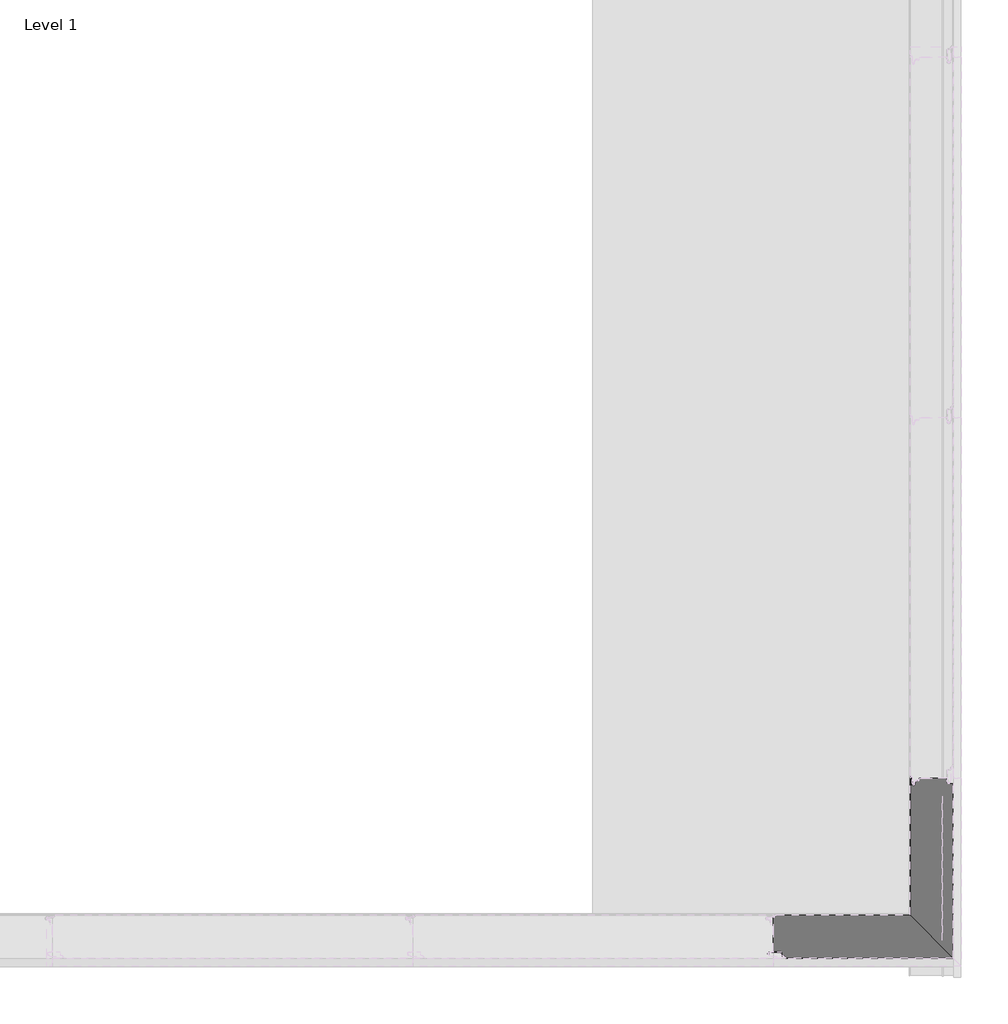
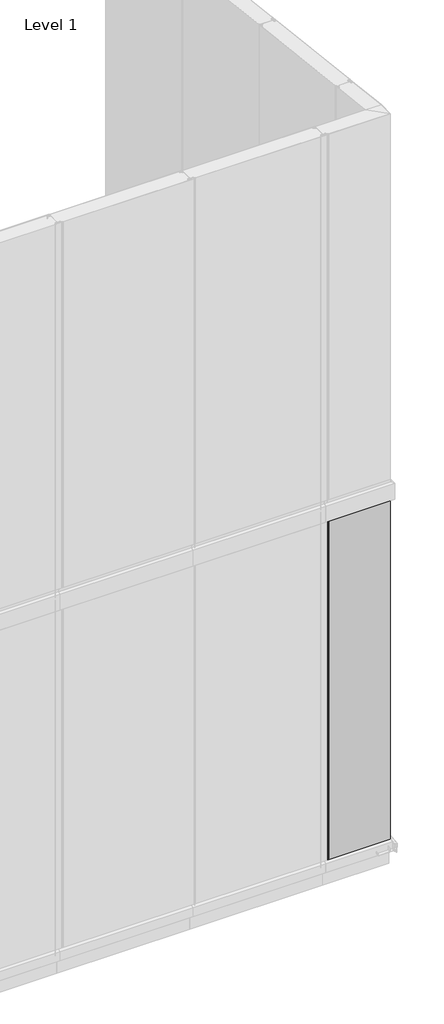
# One storey, part 4 of 12: 1 plate.
"""IFC4 building model written with IfcOpenShell, lengths in millimetres."""

from ifc_helpers import new_model, si_unit, point, frame, frame_2d, origin, place, context, project, spatial, polyline, circle_curve, ellipse_curve, trimmed, segment, composite_curve, outline, extrude, element, save
from ifc_brep_helpers import plane_surface, cylinder_surface, revolved_surface, advanced_brep

model = new_model("IFC4")

# Units and contexts
model_context = context("Model", 3, world=origin())
ifc_project = project(units=[si_unit("LENGTHUNIT", "METRE", prefix="MILLI")], contexts=[model_context])

# Site, building, storey
site = spatial("IfcSite", under=ifc_project)
building = spatial("IfcBuilding", under=site)
storey = spatial("IfcBuildingStorey", under=building, Name="Level 1", Elevation=0.0)

# Plate
placement = place(None, origin())
element("IfcPlate", 1, ObjectType="TR_C_V_FHL_Corner_Long_B : 120/RAL9006/RAL9002", at=placement, inside=storey, context=model_context, shape_type="SolidModel", body=[
    extrude(outline(composite_curve([segment(polyline([(-4113.3155057, 4088.8069121), (-4483.9373314, 4088.8069121)]), True, "CONTINUOUS"), segment(trimmed(circle_curve(frame_2d((-4483.9373314, 4086.6069121)), 2.2), [point((-4483.9373314, 4088.8069121))], [point((-4485.4929663, 4088.162547))], True, "CARTESIAN"), True, "CONTINUOUS"), segment(polyline([(-4485.4929663, 4088.162547), (-4489.8820536, 4083.7734598)]), True, "CONTINUOUS"), segment(trimmed(circle_curve(frame_2d((-4492.215506, 4086.1069121)), 3.3), [point((-4489.8820536, 4083.7734598))], [point((-4492.215506, 4082.8069121))], False, "CARTESIAN"), True, "CONTINUOUS"), segment(polyline([(-4492.215506, 4082.8069121), (-4506.965506, 4082.8069121)]), True, "CONTINUOUS"), segment(trimmed(circle_curve(frame_2d((-4506.965506, 4080.3569121)), 2.45), [point((-4506.965506, 4082.8069121))], [point((-4507.390944, 4077.9441331))], True, "CARTESIAN"), True, "CONTINUOUS"), segment(polyline([(-4507.390944, 4077.9441331), (-4503.1754067, 4077.2008202)]), True, "CONTINUOUS"), segment(trimmed(circle_curve(frame_2d((-4503.965506, 4072.7199449)), 4.55), [point((-4503.1754067, 4077.2008202))], [point((-4499.415506, 4072.7199449))], False, "CARTESIAN"), True, "CONTINUOUS"), segment(polyline([(-4499.415506, 4072.7199449), (-4499.415506, 4068.6069121), (-4500.215506, 4068.6069121), (-4500.215506, 4072.7199449)]), True, "CONTINUOUS"), segment(trimmed(circle_curve(frame_2d((-4503.965506, 4072.7199449)), 3.75), [point((-4500.215506, 4072.7199449))], [point((-4503.3143253, 4076.412974))], True, "CARTESIAN"), True, "CONTINUOUS"), segment(polyline([(-4503.3143253, 4076.412974), (-4507.5298625, 4077.1562869)]), True, "CONTINUOUS"), segment(trimmed(circle_curve(frame_2d((-4506.965506, 4080.3569121)), 3.25), [point((-4507.5298625, 4077.1562869))], [point((-4506.965506, 4083.6069121))], False, "CARTESIAN"), True, "CONTINUOUS"), segment(polyline([(-4506.965506, 4083.6069121), (-4492.215506, 4083.6069121)]), True, "CONTINUOUS"), segment(trimmed(circle_curve(frame_2d((-4492.215506, 4086.1069121)), 2.5), [point((-4492.215506, 4083.6069121))], [point((-4490.447739, 4084.3391452))], True, "CARTESIAN"), True, "CONTINUOUS"), segment(polyline([(-4490.447739, 4084.3391452), (-4486.0586517, 4088.7282325)]), True, "CONTINUOUS"), segment(trimmed(circle_curve(frame_2d((-4483.9373314, 4086.6069121)), 3.0), [point((-4486.0586517, 4088.7282325))], [point((-4483.9373314, 4089.6069121))], False, "CARTESIAN"), True, "CONTINUOUS"), segment(polyline([(-4483.9373314, 4089.6069121), (-4114.1155057, 4089.6069121), (-4113.3155057, 4088.8069121)]), True, "CONTINUOUS")], self_intersect=False)), frame((0.0, 0.0, 150.0), z_axis=(0.0, 0.0, 1.0), x_axis=(1.0, 0.0, 0.0)), (0.0, 0.0, 1.0), 2830.0),
    extrude(outline(composite_curve([segment(polyline([(-3994.1155058, 3969.6069121), (-4457.5525855, 3969.6069121)]), True, "CONTINUOUS"), segment(trimmed(circle_curve(frame_2d((-4457.5525855, 3972.3069121)), 2.7), [point((-4457.5525855, 3969.6069121))], [point((-4459.4617738, 3970.3977238))], False, "CARTESIAN"), True, "CONTINUOUS"), segment(polyline([(-4459.4617738, 3970.3977238), (-4464.2851757, 3975.2211257)]), True, "CONTINUOUS"), segment(trimmed(circle_curve(frame_2d((-4465.6993893, 3973.8069121)), 2.0), [point((-4464.2851757, 3975.2211257))], [point((-4465.6993893, 3975.8069121))], True, "CARTESIAN"), True, "CONTINUOUS"), segment(polyline([(-4465.6993893, 3975.8069121), (-4468.5155058, 3975.8069121)]), True, "CONTINUOUS"), segment(trimmed(circle_curve(frame_2d((-4468.5155058, 3978.5069121)), 2.7), [point((-4468.5155058, 3975.8069121))], [point((-4471.2155058, 3978.5069121))], False, "CARTESIAN"), True, "CONTINUOUS"), segment(polyline([(-4471.2155058, 3978.5069121), (-4471.2155058, 3984.4069121)]), True, "CONTINUOUS"), segment(trimmed(circle_curve(frame_2d((-4473.2155058, 3984.4069121)), 2.0), [point((-4471.2155058, 3984.4069121))], [point((-4473.2155058, 3986.4069121))], True, "CARTESIAN"), True, "CONTINUOUS"), segment(polyline([(-4473.2155058, 3986.4069121), (-4492.3155058, 3986.4069121), (-4504.7944042, 3985.31515)]), True, "CONTINUOUS"), segment(trimmed(circle_curve(frame_2d((-4504.5155058, 3982.127327)), 3.2), [point((-4504.7944042, 3985.31515))], [point((-4505.5573239, 3979.1016675))], True, "CARTESIAN"), True, "CONTINUOUS"), segment(polyline([(-4505.5573239, 3979.1016675), (-4504.658139, 3978.7920533), (-4504.9185935, 3978.0356385), (-4505.8177784, 3978.3452527)]), True, "CONTINUOUS"), segment(trimmed(circle_curve(frame_2d((-4504.5155058, 3982.127327)), 4.0), [point((-4505.8177784, 3978.3452527))], [point((-4504.8641288, 3986.1121057))], False, "CARTESIAN"), True, "CONTINUOUS"), segment(polyline([(-4504.8641288, 3986.1121057), (-4492.3504346, 3987.2069121), (-4473.2155058, 3987.2069121)]), True, "CONTINUOUS"), segment(trimmed(circle_curve(frame_2d((-4473.2155058, 3984.4069121)), 2.8), [point((-4473.2155058, 3987.2069121))], [point((-4470.4155058, 3984.4069121))], False, "CARTESIAN"), True, "CONTINUOUS"), segment(polyline([(-4470.4155058, 3984.4069121), (-4470.4155058, 3978.5069121)]), True, "CONTINUOUS"), segment(trimmed(circle_curve(frame_2d((-4468.5155058, 3978.5069121)), 1.9), [point((-4470.4155058, 3978.5069121))], [point((-4468.5155058, 3976.6069121))], True, "CARTESIAN"), True, "CONTINUOUS"), segment(polyline([(-4468.5155058, 3976.6069121), (-4465.6993893, 3976.6069121)]), True, "CONTINUOUS"), segment(trimmed(circle_curve(frame_2d((-4465.6993893, 3973.8069121)), 2.8), [point((-4465.6993893, 3976.6069121))], [point((-4463.7194903, 3975.7868111))], False, "CARTESIAN"), True, "CONTINUOUS"), segment(polyline([(-4463.7194903, 3975.7868111), (-4458.8960884, 3970.9634092)]), True, "CONTINUOUS"), segment(trimmed(circle_curve(frame_2d((-4457.5525855, 3972.3069121)), 1.9), [point((-4458.8960884, 3970.9634092))], [point((-4457.5525855, 3970.4069121))], True, "CARTESIAN"), True, "CONTINUOUS"), segment(polyline([(-4457.5525855, 3970.4069121), (-3994.9155057, 3970.4069121), (-3994.1155058, 3969.6069121)]), True, "CONTINUOUS")], self_intersect=False)), frame((0.0, 0.0, 150.0), z_axis=(0.0, 0.0, 1.0), x_axis=(1.0, 0.0, 0.0)), (0.0, 0.0, 1.0), 2830.0),
    advanced_brep(
    [(-3994.1155057, 3969.606912, 2980.0), (-3994.1155057, 4494.707529, 2980.0), (-3994.9741101, 4496.682184, 2980.0), (-3996.9197088, 4498.4964842, 2980.0), (-4000.1155057, 4497.1069121, 2980.0), (-4000.1155057, 4464.7801839, 2980.0), (-4000.2517092, 4463.9662635, 2980.0), (-4002.5909089, 4457.1727343, 2980.0), (-4010.5519334, 4458.1502251, 2980.0), (-4011.4158468, 4468.0248015, 2980.0), (-4013.9063336, 4470.3069121, 2980.0), (-4014.9155057, 4470.3069121, 2980.0), (-4014.9155057, 4469.5069121, 2980.0), (-4013.9063336, 4469.5069121, 2980.0), (-4012.2128026, 4467.9550769, 2980.0), (-4011.3488891, 4458.0805005, 2980.0), (-4001.8344941, 4456.9122797, 2980.0), (-3999.4952944, 4463.705809, 2980.0), (-3999.3155057, 4464.7801839, 2980.0), (-3999.3155057, 4497.1069121, 2980.0), (-3997.4653075, 4497.9114012, 2980.0), (-3995.5197088, 4496.0971011, 2980.0), (-3994.9155057, 4494.707529, 2980.0), (-3994.9155057, 3970.4069121, 2980.0), (-3994.1155057, 3969.606912, 150.0), (-3994.9155057, 3970.4069121, 150.0), (-3994.9155057, 4089.6069121, 150.0), (-3994.1155057, 4089.6069121, 150.0), (-3994.9155057, 4494.707529, 197.1047229), (-3994.1155057, 4494.707529, 197.1047229), (-3994.9741101, 4496.682184, 197.3343339), (-3996.9197088, 4498.4964842, 197.5452991), (-4000.1155057, 4497.1069121, 197.3837209), (-4000.1155057, 4464.7801839, 193.624799), (-4000.2517092, 4463.9662635, 193.5301571), (-4002.5909089, 4457.1727343, 192.7402119), (-4010.5519334, 4458.1502251, 192.8538736), (-4011.4158468, 4468.0248015, 194.0020802), (-4013.9063336, 4470.3069121, 194.2674419), (-4014.9155057, 4470.3069121, 194.2674419), (-4014.9155057, 4469.5069121, 194.1744186), (-4013.9063336, 4469.5069121, 194.1744186), (-4012.2128026, 4467.9550769, 193.9939726), (-4011.3488891, 4458.0805005, 192.8457661), (-4001.8344941, 4456.9122797, 192.7099265), (-3999.4952944, 4463.705809, 193.4998717), (-3999.3155057, 4464.7801839, 193.624799), (-3999.3155057, 4497.1069121, 197.3837209), (-3997.4653075, 4497.9114012, 197.4772662), (-3995.5197088, 4496.0971011, 197.266301)],
    [
        (0, 1),
        (1, 2, circle_curve(frame((-3996.8155057, 4494.707529, 2980.0), z_axis=(0.0, 0.0, 1.0), x_axis=(0.0, 1.0, 0.0)), 2.7)),
        (2, 3),
        (3, 4, circle_curve(frame((-3998.2155057, 4497.1069121, 2980.0), z_axis=(0.0, 0.0, 1.0), x_axis=(0.0, 1.0, 0.0)), 1.9)),
        (4, 5),
        (5, 6, circle_curve(frame((-4002.6155057, 4464.7801839, 2980.0), z_axis=(0.0, 0.0, -1.0), x_axis=(0.0, 1.0, 0.0)), 2.5)),
        (6, 7),
        (7, 8, circle_curve(frame((-4006.4675351, 4458.5075637, 2980.0), z_axis=(0.0, 0.0, -1.0), x_axis=(0.0, 1.0, 0.0)), 4.1)),
        (8, 9),
        (9, 10, circle_curve(frame((-4013.9063336, 4467.8069121, 2980.0), z_axis=(0.0, 0.0, 1.0), x_axis=(0.0, 1.0, 0.0)), 2.5)),
        (10, 11),
        (11, 12),
        (12, 13),
        (13, 14, circle_curve(frame((-4013.9063336, 4467.8069121, 2980.0), z_axis=(0.0, 0.0, -1.0), x_axis=(0.0, 1.0, 0.0)), 1.7)),
        (14, 15),
        (15, 16, circle_curve(frame((-4006.4675351, 4458.5075637, 2980.0), z_axis=(0.0, 0.0, 1.0), x_axis=(0.0, 1.0, 0.0)), 4.9)),
        (16, 17),
        (17, 18, circle_curve(frame((-4002.6155057, 4464.7801839, 2980.0), z_axis=(0.0, 0.0, 1.0), x_axis=(0.0, 1.0, 0.0)), 3.3)),
        (18, 19),
        (19, 20, circle_curve(frame((-3998.2155057, 4497.1069121, 2980.0), z_axis=(0.0, 0.0, -1.0), x_axis=(0.0, 1.0, 0.0)), 1.1)),
        (20, 21),
        (21, 22, circle_curve(frame((-3996.8155057, 4494.707529, 2980.0), z_axis=(0.0, 0.0, -1.0), x_axis=(0.0, 1.0, 0.0)), 1.9)),
        (22, 23),
        (23, 0),
        (24, 25),
        (25, 26),
        (26, 27),
        (27, 24),
        (22, 28),
        (28, 26),
        (25, 23),
        (24, 0),
        (27, 29),
        (29, 1),
        (29, 30, ellipse_curve(frame((-3996.8155057, 4494.707529, 197.1047229), z_axis=(0.0, -0.11550085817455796, 0.9933073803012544), x_axis=(0.0, 0.9933073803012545, 0.11550085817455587)), 2.7181918, 2.7)),
        (30, 2),
        (30, 31),
        (31, 3),
        (31, 32, ellipse_curve(frame((-3998.2155057, 4497.1069121, 197.3837209), z_axis=(0.0, -0.11550085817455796, 0.9933073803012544), x_axis=(0.0, 0.9933073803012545, 0.11550085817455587)), 1.9128017, 1.9)),
        (32, 4),
        (32, 33),
        (33, 5),
        (33, 34, ellipse_curve(frame((-4002.6155057, 4464.7801839, 193.624799), z_axis=(0.0, 0.11550085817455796, -0.9933073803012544), x_axis=(0.0, -0.9933073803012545, -0.11550085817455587)), 2.5168443, 2.5)),
        (34, 6),
        (34, 35),
        (35, 7),
        (35, 36, ellipse_curve(frame((-4006.4675351, 4458.5075637, 192.8954246), z_axis=(0.0, 0.11550085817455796, -0.9933073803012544), x_axis=(0.0, -0.9933073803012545, -0.11550085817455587)), 4.1276246, 4.1)),
        (36, 8),
        (36, 37),
        (37, 9),
        (37, 38, ellipse_curve(frame((-4013.9063336, 4467.8069121, 193.9767442), z_axis=(0.0, -0.11550085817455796, 0.9933073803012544), x_axis=(0.0, 0.9933073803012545, 0.11550085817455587)), 2.5168443, 2.5)),
        (38, 10),
        (38, 39),
        (39, 11),
        (39, 40),
        (40, 12),
        (40, 41),
        (41, 13),
        (41, 42, ellipse_curve(frame((-4013.9063336, 4467.8069121, 193.9767442), z_axis=(0.0, 0.11550085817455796, -0.9933073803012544), x_axis=(0.0, -0.9933073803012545, -0.11550085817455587)), 1.7114541, 1.7)),
        (42, 14),
        (42, 43),
        (43, 15),
        (43, 44, ellipse_curve(frame((-4006.4675351, 4458.5075637, 192.8954246), z_axis=(0.0, -0.11550085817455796, 0.9933073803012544), x_axis=(0.0, 0.9933073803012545, 0.11550085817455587)), 4.9330148, 4.9)),
        (44, 16),
        (44, 45),
        (45, 17),
        (45, 46, ellipse_curve(frame((-4002.6155057, 4464.7801839, 193.624799), z_axis=(0.0, -0.11550085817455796, 0.9933073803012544), x_axis=(0.0, 0.9933073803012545, 0.11550085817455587)), 3.3222345, 3.3)),
        (46, 18),
        (46, 47),
        (47, 19),
        (47, 48, ellipse_curve(frame((-3998.2155057, 4497.1069121, 197.3837209), z_axis=(0.0, 0.11550085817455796, -0.9933073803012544), x_axis=(0.0, -0.9933073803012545, -0.11550085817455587)), 1.1074115, 1.1)),
        (48, 20),
        (48, 49),
        (49, 21),
        (49, 28, ellipse_curve(frame((-3996.8155057, 4494.707529, 197.1047229), z_axis=(0.0, 0.11550085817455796, -0.9933073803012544), x_axis=(0.0, -0.9933073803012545, -0.11550085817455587)), 1.9128017, 1.9)),
    ],
    [
        plane_surface(frame((-3994.1155057, 4494.707529, 2980.0), z_axis=(0.0, 0.0, 1.0), x_axis=(0.0, 1.0, 0.0))),
        plane_surface(frame((-3994.1155057, 4494.707529, 150.0), z_axis=(0.0, 0.0, -1.0), x_axis=(0.0, -1.0, 0.0))),
        plane_surface(frame((-3994.9155057, 4494.707529, 2980.0), z_axis=(-1.0, 0.0, 0.0), x_axis=(0.0, 0.0, -1.0))),
        plane_surface(frame((-3994.9155057, 3970.4069121, 2980.0), z_axis=(-0.7071068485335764, -0.7071067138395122, 0.0), x_axis=(0.0, 0.0, -1.0))),
        plane_surface(frame((-3994.1155057, 3969.606912, 2980.0), z_axis=(1.0, 0.0, 0.0), x_axis=(0.0, 0.0, -1.0))),
        cylinder_surface(frame((-3996.8155057, 4494.707529, 150.0), z_axis=(0.0, 0.0, 1.0), x_axis=(0.0, 1.0, 0.0)), 2.7),
        plane_surface(frame((-3994.9741101, 4496.682184, 2980.0), z_axis=(0.6819983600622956, 0.7313537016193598, 0.0), x_axis=(0.0, 0.0, -1.0))),
        cylinder_surface(frame((-3998.2155057, 4497.1069121, 150.0), z_axis=(0.0, 0.0, 1.0), x_axis=(0.0, 1.0, 0.0)), 1.9),
        plane_surface(frame((-4000.1155057, 4497.1069121, 2980.0), z_axis=(-1.0, 0.0, 0.0), x_axis=(0.0, 0.0, -1.0))),
        revolved_surface(polyline([(-4002.6155057, 4467.2801839, 193.33410132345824), (-4002.6155057, 4467.2801839, 2980.0)]), (-4002.6155057, 4464.7801839, 150.0), (0.0, 0.0, -1.0)),
        plane_surface(frame((-4000.2517092, 4463.9662635, 2980.0), z_axis=(-0.9455185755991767, 0.3255681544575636, 0.0), x_axis=(0.0, 0.0, -1.0))),
        revolved_surface(polyline([(-4006.4675351, 4462.6075637, 192.4186804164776), (-4006.4675351, 4462.6075637, 2980.0)]), (-4006.4675351, 4458.5075637, 150.0), (0.0, 0.0, -1.0)),
        plane_surface(frame((-4010.5519334, 4458.1502251, 2980.0), z_axis=(0.9961946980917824, 0.08715574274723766, 0.0), x_axis=(0.0, 0.0, -1.0))),
        cylinder_surface(frame((-4013.9063336, 4467.8069121, 150.0), z_axis=(0.0, 0.0, 1.0), x_axis=(0.0, 1.0, 0.0)), 2.5),
        plane_surface(frame((-4013.9063336, 4470.3069121, 2980.0), z_axis=(0.0, 1.0, 0.0), x_axis=(0.0, 0.0, -1.0))),
        plane_surface(frame((-4014.9155057, 4470.3069121, 2980.0), z_axis=(-1.0, 0.0, 0.0), x_axis=(0.0, 0.0, -1.0))),
        plane_surface(frame((-4014.9155057, 4469.5069121, 2980.0), z_axis=(0.0, -1.0, 0.0), x_axis=(0.0, 0.0, -1.0))),
        revolved_surface(polyline([(-4013.9063336, 4469.5069121, 193.77906978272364), (-4013.9063336, 4469.5069121, 2980.0)]), (-4013.9063336, 4467.8069121, 150.0), (0.0, 0.0, -1.0)),
        plane_surface(frame((-4012.2128026, 4467.9550769, 2980.0), z_axis=(-0.9961946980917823, -0.08715574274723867, 0.0), x_axis=(0.0, 0.0, -1.0))),
        cylinder_surface(frame((-4006.4675351, 4458.5075637, 150.0), z_axis=(0.0, 0.0, 1.0), x_axis=(0.0, 1.0, 0.0)), 4.9),
        plane_surface(frame((-4001.8344941, 4456.9122797, 2980.0), z_axis=(0.9455185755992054, -0.3255681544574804, 0.0), x_axis=(0.0, 0.0, -1.0))),
        cylinder_surface(frame((-4002.6155057, 4464.7801839, 150.0), z_axis=(0.0, 0.0, 1.0), x_axis=(0.0, 1.0, 0.0)), 3.3),
        plane_surface(frame((-3999.3155057, 4464.7801839, 2980.0), z_axis=(1.0, 0.0, 0.0), x_axis=(0.0, 0.0, -1.0))),
        revolved_surface(polyline([(-3998.2155057, 4498.2069121, 197.25581392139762), (-3998.2155057, 4498.2069121, 2980.0)]), (-3998.2155057, 4497.1069121, 150.0), (0.0, 0.0, -1.0)),
        plane_surface(frame((-3997.4653075, 4497.9114012, 2980.0), z_axis=(-0.6819983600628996, -0.7313537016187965, 0.0), x_axis=(0.0, 0.0, -1.0))),
        revolved_surface(polyline([(-3996.8155057, 4496.607529, 196.88379266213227), (-3996.8155057, 4496.607529, 2980.0)]), (-3996.8155057, 4494.707529, 150.0), (0.0, 0.0, -1.0)),
        plane_surface(frame((-3994.1155057, 6239.6069121, 400.0), z_axis=(0.0, 0.11550085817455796, -0.9933073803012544), x_axis=(0.0, 0.9933073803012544, 0.11550085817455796))),
    ],
    [
        (0, [[1, 2, 3, 4, 5, 6, 7, 8, 9, 10, 11, 12, 13, 14, 15, 16, 17, 18, 19, 20, 21, 22, 23, 24]]),
        (1, [[25, 26, 27, 28]]),
        (2, [[-23, 29, 30, -26, 31]]),
        (3, [[-24, -31, -25, 32]]),
        (4, [[-1, -32, -28, 33, 34]]),
        (5, [[-2, -34, 35, 36]]),
        (6, [[-3, -36, 37, 38]]),
        (7, [[-4, -38, 39, 40]]),
        (8, [[-5, -40, 41, 42]]),
        (9, [[-6, -42, 43, 44]]),
        (10, [[-7, -44, 45, 46]]),
        (11, [[-8, -46, 47, 48]]),
        (12, [[-9, -48, 49, 50]]),
        (13, [[-10, -50, 51, 52]]),
        (14, [[-11, -52, 53, 54]]),
        (15, [[-12, -54, 55, 56]]),
        (16, [[-13, -56, 57, 58]]),
        (17, [[-14, -58, 59, 60]]),
        (18, [[-15, -60, 61, 62]]),
        (19, [[-16, -62, 63, 64]]),
        (20, [[-17, -64, 65, 66]]),
        (21, [[-18, -66, 67, 68]]),
        (22, [[-19, -68, 69, 70]]),
        (23, [[-20, -70, 71, 72]]),
        (24, [[-21, -72, 73, 74]]),
        (25, [[-22, -74, 75, -29]]),
        (26, [[-27, -30, -75, -73, -71, -69, -67, -65, -63, -61, -59, -57, -55, -53, -51, -49, -47, -45, -43, -41, -39, -37, -35, -33]]),
    ],
),
    advanced_brep(
    [(-4113.3155057, 4088.8069121, 2980.0), (-4113.3155057, 4469.1255413, 2980.0), (-4112.7443639, 4470.5043995, 2980.0), (-4110.8786785, 4472.3700849, 2980.0), (-4108.9155057, 4471.5569121, 2980.0), (-4108.9155057, 4453.9569121, 2980.0), (-4100.4800727, 4453.2189074, 2980.0), (-4099.4132474, 4459.2691743, 2980.0), (-4096.5080645, 4461.7069121, 2980.0), (-4093.1155057, 4461.7069121, 2980.0), (-4093.1155057, 4462.5069121, 2980.0), (-4096.5080645, 4462.5069121, 2980.0), (-4100.2010936, 4459.4080928, 2980.0), (-4101.2679189, 4453.3578259, 2980.0), (-4108.1155057, 4453.9569121, 2980.0), (-4108.1155057, 4471.5569121, 2980.0), (-4111.4443639, 4472.9357704, 2980.0), (-4113.3100493, 4471.0700849, 2980.0), (-4114.1155057, 4469.1255413, 2980.0), (-4114.1155057, 4089.6069121, 2980.0), (-4113.3155057, 4088.8069121, 150.0), (-4114.1155057, 4089.6069121, 150.0), (-4113.3155057, 4089.6069121, 150.0), (-4114.1155057, 4469.1255413, 194.1300732), (-4113.3155057, 4469.1255413, 194.1300732), (-4112.7443639, 4470.5043995, 194.2904055), (-4110.8786785, 4472.3700849, 194.5073457), (-4108.9155057, 4471.5569121, 194.4127907), (-4108.9155057, 4453.9569121, 192.3662791), (-4100.4800727, 4453.2189074, 192.2804646), (-4099.4132474, 4459.2691743, 192.983984), (-4096.5080645, 4461.7069121, 193.2674419), (-4093.1155057, 4461.7069121, 193.2674419), (-4093.1155057, 4462.5069121, 193.3604651), (-4096.5080645, 4462.5069121, 193.3604651), (-4100.2010936, 4459.4080928, 193.0001373), (-4101.2679189, 4453.3578259, 192.2966179), (-4108.1155057, 4453.9569121, 192.3662791), (-4108.1155057, 4471.5569121, 194.4127907), (-4111.4443639, 4472.9357704, 194.573123), (-4113.3100493, 4471.0700849, 194.3561829)],
    [
        (0, 1),
        (1, 2, circle_curve(frame((-4111.3655057, 4469.1255413, 2980.0), z_axis=(0.0, 0.0, -1.0), x_axis=(0.0, 1.0, 0.0)), 1.95)),
        (2, 3),
        (3, 4, circle_curve(frame((-4110.0655057, 4471.5569121, 2980.0), z_axis=(0.0, 0.0, -1.0), x_axis=(0.0, 1.0, 0.0)), 1.15)),
        (4, 5),
        (5, 6, circle_curve(frame((-4104.6655057, 4453.9569121, 2980.0), z_axis=(0.0, 0.0, 1.0), x_axis=(0.0, 1.0, 0.0)), 4.25)),
        (6, 7),
        (7, 8, circle_curve(frame((-4096.5080645, 4458.7569121, 2980.0), z_axis=(0.0, 0.0, -1.0), x_axis=(0.0, 1.0, 0.0)), 2.95)),
        (8, 9),
        (9, 10),
        (10, 11),
        (11, 12, circle_curve(frame((-4096.5080645, 4458.7569121, 2980.0), z_axis=(0.0, 0.0, 1.0), x_axis=(0.0, 1.0, 0.0)), 3.75)),
        (12, 13),
        (13, 14, circle_curve(frame((-4104.6655057, 4453.9569121, 2980.0), z_axis=(0.0, 0.0, -1.0), x_axis=(0.0, 1.0, 0.0)), 3.45)),
        (14, 15),
        (15, 16, circle_curve(frame((-4110.0655057, 4471.5569121, 2980.0), z_axis=(0.0, 0.0, 1.0), x_axis=(0.0, 1.0, 0.0)), 1.95)),
        (16, 17),
        (17, 18, circle_curve(frame((-4111.3655057, 4469.1255413, 2980.0), z_axis=(0.0, 0.0, 1.0), x_axis=(0.0, 1.0, 0.0)), 2.75)),
        (18, 19),
        (19, 0),
        (20, 21),
        (21, 22),
        (22, 20),
        (18, 23),
        (23, 21),
        (21, 19),
        (20, 0),
        (22, 24),
        (24, 1),
        (24, 25, ellipse_curve(frame((-4111.3655057, 4469.1255413, 194.1300732), z_axis=(0.0, 0.11550085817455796, -0.9933073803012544), x_axis=(0.0, -0.9933073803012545, -0.11550085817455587)), 1.9631385, 1.95)),
        (25, 2),
        (25, 26),
        (26, 3),
        (26, 27, ellipse_curve(frame((-4110.0655057, 4471.5569121, 194.4127907), z_axis=(0.0, 0.11550085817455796, -0.9933073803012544), x_axis=(0.0, -0.9933073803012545, -0.11550085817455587)), 1.1577484, 1.15)),
        (27, 4),
        (27, 28),
        (28, 5),
        (28, 29, ellipse_curve(frame((-4104.6655057, 4453.9569121, 192.3662791), z_axis=(0.0, -0.11550085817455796, 0.9933073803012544), x_axis=(0.0, 0.9933073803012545, 0.11550085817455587)), 4.2786353, 4.25)),
        (29, 6),
        (29, 30),
        (30, 7),
        (8, 31),
        (31, 32),
        (32, 9),
        (32, 33),
        (33, 10),
        (33, 34),
        (34, 11),
        (12, 35),
        (35, 36),
        (36, 13),
        (36, 37, ellipse_curve(frame((-4104.6655057, 4453.9569121, 192.3662791), z_axis=(0.0, 0.11550085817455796, -0.9933073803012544), x_axis=(0.0, -0.9933073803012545, -0.11550085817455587)), 3.4732451, 3.45)),
        (37, 14),
        (37, 38),
        (38, 15),
        (38, 39, ellipse_curve(frame((-4110.0655057, 4471.5569121, 194.4127907), z_axis=(0.0, -0.11550085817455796, 0.9933073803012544), x_axis=(0.0, 0.9933073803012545, 0.11550085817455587)), 1.9631385, 1.95)),
        (39, 16),
        (39, 40),
        (40, 17),
        (40, 23, ellipse_curve(frame((-4111.3655057, 4469.1255413, 194.1300732), z_axis=(0.0, -0.11550085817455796, 0.9933073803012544), x_axis=(0.0, 0.9933073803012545, 0.11550085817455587)), 2.7685287, 2.75)),
        (30, 31, ellipse_curve(frame((-4096.5080645, 4458.7569121, 192.9244186), z_axis=(0.0, 0.11550085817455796, -0.9933073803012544), x_axis=(0.0, -0.9933073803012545, -0.11550085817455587)), 2.9698763, 2.95)),
        (34, 35, ellipse_curve(frame((-4096.5080645, 4458.7569121, 192.9244186), z_axis=(0.0, -0.11550085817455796, 0.9933073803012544), x_axis=(0.0, 0.9933073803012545, 0.11550085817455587)), 3.7752664, 3.75)),
    ],
    [
        plane_surface(frame((-4113.3155057, 4469.1255413, 2980.0), z_axis=(0.0, 0.0, 1.0), x_axis=(0.0, 1.0, 0.0))),
        plane_surface(frame((-4113.3155057, 4469.1255413, 150.0), z_axis=(0.0, 0.0, -1.0), x_axis=(0.0, -1.0, 0.0))),
        plane_surface(frame((-4114.1155057, 4469.1255413, 2980.0), z_axis=(-1.0, 0.0, 0.0), x_axis=(0.0, 0.0, -1.0))),
        plane_surface(frame((-4114.1155057, 4089.6069121, 2980.0), z_axis=(-0.7071067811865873, -0.7071067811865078, 0.0), x_axis=(0.0, 0.0, -1.0))),
        plane_surface(frame((-4113.3155057, 4088.8069121, 2980.0), z_axis=(1.0, 0.0, 0.0), x_axis=(0.0, 0.0, -1.0))),
        revolved_surface(polyline([(-4111.3655057, 4471.0755413, 193.9033290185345), (-4111.3655057, 4471.0755413, 2980.0)]), (-4111.3655057, 4469.1255413, 150.0), (0.0, 0.0, -1.0)),
        plane_surface(frame((-4112.7443639, 4470.5043995, 2980.0), z_axis=(0.7071067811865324, -0.7071067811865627, 0.0), x_axis=(0.0, 0.0, -1.0))),
        revolved_surface(polyline([(-4110.0655057, 4472.7069120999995, 194.27906976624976), (-4110.0655057, 4472.7069120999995, 2980.0)]), (-4110.0655057, 4471.5569121, 150.0), (0.0, 0.0, -1.0)),
        plane_surface(frame((-4108.9155057, 4471.5569121, 2980.0), z_axis=(-1.0, 0.0, 0.0), x_axis=(0.0, 0.0, -1.0))),
        cylinder_surface(frame((-4104.6655057, 4453.9569121, 150.0), z_axis=(0.0, 0.0, 1.0), x_axis=(0.0, 1.0, 0.0)), 4.25),
        plane_surface(frame((-4100.4800727, 4453.2189074, 2980.0), z_axis=(0.9848077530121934, -0.17364817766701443, 0.0), x_axis=(0.0, 0.0, -1.0))),
        plane_surface(frame((-4096.5080645, 4461.7069121, 2980.0), z_axis=(0.0, -1.0, 0.0), x_axis=(0.0, 0.0, -1.0))),
        plane_surface(frame((-4093.1155057, 4461.7069121, 2980.0), z_axis=(1.0, 0.0, 0.0), x_axis=(0.0, 0.0, -1.0))),
        plane_surface(frame((-4093.1155057, 4462.5069121, 2980.0), z_axis=(0.0, 1.0, 0.0), x_axis=(0.0, 0.0, -1.0))),
        plane_surface(frame((-4100.2010936, 4459.4080928, 2980.0), z_axis=(-0.9848077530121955, 0.173648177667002, 0.0), x_axis=(0.0, 0.0, -1.0))),
        revolved_surface(polyline([(-4104.6655057, 4457.4069121, 191.96511631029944), (-4104.6655057, 4457.4069121, 2980.0)]), (-4104.6655057, 4453.9569121, 150.0), (0.0, 0.0, -1.0)),
        plane_surface(frame((-4108.1155057, 4453.9569121, 2980.0), z_axis=(1.0, 0.0, 0.0), x_axis=(0.0, 0.0, -1.0))),
        cylinder_surface(frame((-4110.0655057, 4471.5569121, 150.0), z_axis=(0.0, 0.0, 1.0), x_axis=(0.0, 1.0, 0.0)), 1.95),
        plane_surface(frame((-4111.4443639, 4472.9357704, 2980.0), z_axis=(-0.7071067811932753, 0.7071067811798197, 0.0), x_axis=(0.0, 0.0, -1.0))),
        cylinder_surface(frame((-4111.3655057, 4469.1255413, 150.0), z_axis=(0.0, 0.0, 1.0), x_axis=(0.0, 1.0, 0.0)), 2.75),
        revolved_surface(polyline([(-4096.5080645, 4461.7069120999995, 192.58139533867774), (-4096.5080645, 4461.7069120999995, 2980.0)]), (-4096.5080645, 4458.7569121, 150.0), (0.0, 0.0, -1.0)),
        cylinder_surface(frame((-4096.5080645, 4458.7569121, 150.0), z_axis=(0.0, 0.0, 1.0), x_axis=(0.0, 1.0, 0.0)), 3.75),
        plane_surface(frame((-3994.1155057, 6239.6069121, 400.0), z_axis=(0.0, 0.11550085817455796, -0.9933073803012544), x_axis=(0.0, 0.9933073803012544, 0.11550085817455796))),
    ],
    [
        (0, [[1, 2, 3, 4, 5, 6, 7, 8, 9, 10, 11, 12, 13, 14, 15, 16, 17, 18, 19, 20]]),
        (1, [[21, 22, 23]]),
        (2, [[-19, 24, 25, 26]]),
        (3, [[-20, -26, -21, 27]]),
        (4, [[-1, -27, -23, 28, 29]]),
        (5, [[-2, -29, 30, 31]]),
        (6, [[-3, -31, 32, 33]]),
        (7, [[-4, -33, 34, 35]]),
        (8, [[-5, -35, 36, 37]]),
        (9, [[-6, -37, 38, 39]]),
        (10, [[-7, -39, 40, 41]]),
        (11, [[-9, 42, 43, 44]]),
        (12, [[-10, -44, 45, 46]]),
        (13, [[-11, -46, 47, 48]]),
        (14, [[-13, 49, 50, 51]]),
        (15, [[-14, -51, 52, 53]]),
        (16, [[-15, -53, 54, 55]]),
        (17, [[-16, -55, 56, 57]]),
        (18, [[-17, -57, 58, 59]]),
        (19, [[-18, -59, 60, -24]]),
        (20, [[-8, -41, 61, -42]]),
        (21, [[-12, -48, 62, -49]]),
        (22, [[-22, -25, -60, -58, -56, -54, -52, -50, -62, -47, -45, -43, -61, -40, -38, -36, -34, -32, -30, -28]]),
    ],
),
    extrude(outline(composite_curve([segment(polyline([(-3994.9155057, 3970.4069121), (-4457.5525855, 3970.4069121)]), True, "CONTINUOUS"), segment(trimmed(circle_curve(frame_2d((-4457.5525855, 3972.3069121)), 1.9), [point((-4457.5525855, 3970.4069121))], [point((-4458.8960884, 3970.9634092))], False, "CARTESIAN"), True, "CONTINUOUS"), segment(polyline([(-4458.8960884, 3970.9634092), (-4463.7194903, 3975.7868111)]), True, "CONTINUOUS"), segment(trimmed(circle_curve(frame_2d((-4465.6993893, 3973.8069121)), 2.8), [point((-4463.7194903, 3975.7868111))], [point((-4465.6993893, 3976.6069121))], True, "CARTESIAN"), True, "CONTINUOUS"), segment(polyline([(-4465.6993893, 3976.6069121), (-4468.5155058, 3976.6069121)]), True, "CONTINUOUS"), segment(trimmed(circle_curve(frame_2d((-4468.5155058, 3978.5069121)), 1.9), [point((-4468.5155058, 3976.6069121))], [point((-4470.4155058, 3978.5069121))], False, "CARTESIAN"), True, "CONTINUOUS"), segment(polyline([(-4470.4155058, 3978.5069121), (-4470.4155058, 3984.4069121)]), True, "CONTINUOUS"), segment(trimmed(circle_curve(frame_2d((-4473.2155058, 3984.4069121)), 2.8), [point((-4470.4155058, 3984.4069121))], [point((-4473.2155058, 3987.2069121))], True, "CARTESIAN"), True, "CONTINUOUS"), segment(polyline([(-4473.2155058, 3987.2069121), (-4492.3504346, 3987.2069121), (-4494.1155061, 3987.0524884), (-4494.1155061, 4082.8069121), (-4492.2155058, 4082.8069121)]), True, "CONTINUOUS"), segment(trimmed(circle_curve(frame_2d((-4492.2155058, 4086.1069121)), 3.3), [point((-4492.2155058, 4082.8069121))], [point((-4489.8820534, 4083.7734598))], True, "CARTESIAN"), True, "CONTINUOUS"), segment(polyline([(-4489.8820534, 4083.7734598), (-4485.4929661, 4088.162547)]), True, "CONTINUOUS"), segment(trimmed(circle_curve(frame_2d((-4483.9373312, 4086.6069121)), 2.2), [point((-4485.4929661, 4088.162547))], [point((-4483.9373312, 4088.8069121))], False, "CARTESIAN"), True, "CONTINUOUS"), segment(polyline([(-4483.9373312, 4088.8069121), (-4113.3155057, 4088.8069121), (-3994.9155057, 3970.4069121)]), True, "CONTINUOUS")], self_intersect=False)), frame((0.0, 0.0, 150.0), z_axis=(0.0, 0.0, 1.0), x_axis=(1.0, 0.0, 0.0)), (0.0, 0.0, 1.0), 2830.0),
    advanced_brep(
    [(-3994.9155057, 3970.4069121, 2980.0), (-3994.9155057, 4453.6075637, 2980.0), (-4006.4675351, 4453.6075637, 2980.0), (-4011.3488891, 4458.0805005, 2980.0), (-4012.2128026, 4467.9550769, 2980.0), (-4013.9063336, 4469.5069121, 2980.0), (-4014.9155057, 4469.6069121, 2980.0), (-4088.9755057, 4469.6069121, 2980.0), (-4088.9755057, 4461.7069121, 2980.0), (-4096.5080645, 4461.7069121, 2980.0), (-4099.4132474, 4459.2691743, 2980.0), (-4100.4800727, 4453.2189074, 2980.0), (-4104.6655057, 4449.7069121, 2980.0), (-4113.3155057, 4449.7069121, 2980.0), (-4113.3155057, 4088.8069121, 2980.0), (-3994.9155057, 3970.4069121, 150.0), (-4113.3155057, 4088.8069121, 150.0), (-4113.3155057, 4089.6069121, 150.0), (-3994.9155057, 4089.6069121, 150.0), (-4113.3155057, 4449.7069121, 191.872093), (-3994.9155057, 4453.6075637, 192.3256572), (-4014.9155057, 4469.6069121, 194.1860465), (-4088.9755057, 4469.6069121, 194.1860465), (-4006.4675351, 4453.6075637, 192.3256572), (-4011.3488891, 4458.0805005, 192.8457661), (-4012.2128026, 4467.9550769, 193.9939726), (-4013.9063336, 4469.5069121, 194.1744186), (-4088.9755057, 4461.7069121, 193.2674419), (-4096.5080645, 4461.7069121, 193.2674419), (-4099.4132474, 4459.2691743, 192.983984), (-4100.4800727, 4453.2189074, 192.2804646), (-4104.6655057, 4449.7069121, 191.872093)],
    [
        (0, 1),
        (1, 2),
        (2, 3, circle_curve(frame((-4006.4675351, 4458.5075637, 2980.0), z_axis=(0.0, 0.0, -1.0), x_axis=(1.0, 0.0, 0.0)), 4.9)),
        (3, 4),
        (4, 5, circle_curve(frame((-4013.9063336, 4467.8069121, 2980.0), z_axis=(0.0, 0.0, 1.0), x_axis=(1.0, 0.0, 0.0)), 1.7)),
        (5, 6),
        (6, 7),
        (7, 8),
        (8, 9),
        (9, 10, circle_curve(frame((-4096.5080645, 4458.7569121, 2980.0), z_axis=(0.0, 0.0, 1.0), x_axis=(1.0, 0.0, 0.0)), 2.95)),
        (10, 11),
        (11, 12, circle_curve(frame((-4104.6655057, 4453.9569121, 2980.0), z_axis=(0.0, 0.0, -1.0), x_axis=(1.0, 0.0, 0.0)), 4.25)),
        (12, 13),
        (13, 14),
        (14, 0),
        (15, 16),
        (16, 17),
        (17, 18),
        (18, 15),
        (13, 19),
        (19, 17),
        (16, 14),
        (15, 0),
        (18, 20),
        (20, 1),
        (6, 21),
        (21, 22),
        (22, 7),
        (20, 23),
        (23, 2),
        (23, 24, ellipse_curve(frame((-4006.4675351, 4458.5075637, 192.8954246), z_axis=(0.0, 0.11550085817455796, -0.9933073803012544), x_axis=(0.0, -0.9933073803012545, -0.11550085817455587)), 4.9330148, 4.9)),
        (24, 3),
        (24, 25),
        (25, 4),
        (25, 26, ellipse_curve(frame((-4013.9063336, 4467.8069121, 193.9767442), z_axis=(0.0, -0.11550085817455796, 0.9933073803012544), x_axis=(0.0, 0.9933073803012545, 0.11550085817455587)), 1.7114541, 1.7)),
        (26, 5),
        (26, 21),
        (22, 27),
        (27, 8),
        (27, 28),
        (28, 9),
        (10, 29),
        (29, 30),
        (30, 11),
        (30, 31, ellipse_curve(frame((-4104.6655057, 4453.9569121, 192.3662791), z_axis=(0.0, 0.11550085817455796, -0.9933073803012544), x_axis=(0.0, -0.9933073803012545, -0.11550085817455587)), 4.2786353, 4.25)),
        (31, 12),
        (31, 19),
        (28, 29, ellipse_curve(frame((-4096.5080645, 4458.7569121, 192.9244186), z_axis=(0.0, -0.11550085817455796, 0.9933073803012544), x_axis=(0.0, 0.9933073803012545, 0.11550085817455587)), 2.9698763, 2.95)),
    ],
    [
        plane_surface(frame((-3994.9155057, 4453.6075637, 2980.0), z_axis=(0.0, 0.0, 1.0), x_axis=(0.0, 1.0, 0.0))),
        plane_surface(frame((-3994.9155057, 4453.6075637, 150.0), z_axis=(0.0, 0.0, -1.0), x_axis=(0.0, -1.0, 0.0))),
        plane_surface(frame((-4113.3155057, 4449.7069121, 2980.0), z_axis=(-1.0, 0.0, 0.0), x_axis=(0.0, 0.0, -1.0))),
        plane_surface(frame((-4113.3155057, 4088.8069121, 2980.0), z_axis=(-0.7071067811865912, -0.7071067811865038, 0.0), x_axis=(0.0, 0.0, -1.0))),
        plane_surface(frame((-3994.9155057, 3970.4069121, 2980.0), z_axis=(1.0, 0.0, 0.0), x_axis=(0.0, 0.0, -1.0))),
        plane_surface(frame((-4014.9155057, 4469.6069121, 2980.0), z_axis=(0.0, 1.0, 0.0), x_axis=(0.0, 0.0, -1.0))),
        plane_surface(frame((-3994.9155057, 4453.6075637, 2980.0), z_axis=(0.0, 1.0, 0.0), x_axis=(0.0, 0.0, -1.0))),
        revolved_surface(polyline([(-4001.5675351, 4458.5075637, 192.32565715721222), (-4001.5675351, 4458.5075637, 2980.0)]), (-4006.4675351, 4458.5075637, 150.0), (0.0, 0.0, -1.0)),
        plane_surface(frame((-4011.3488891, 4458.0805005, 2980.0), z_axis=(0.9961946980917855, 0.08715574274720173, 0.0), x_axis=(0.0, 0.0, -1.0))),
        cylinder_surface(frame((-4013.9063336, 4467.8069121, 150.0), z_axis=(0.0, 0.0, 1.0), x_axis=(1.0, 0.0, 0.0)), 1.7),
        plane_surface(frame((-4013.9063336, 4469.5069121, 2980.0), z_axis=(0.09860819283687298, 0.9951263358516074, 0.0), x_axis=(0.0, 0.0, -1.0))),
        plane_surface(frame((-4088.9755057, 4469.6069121, 2980.0), z_axis=(-1.0, 0.0, 0.0), x_axis=(0.0, 0.0, -1.0))),
        plane_surface(frame((-4088.9755057, 4461.7069121, 2980.0), z_axis=(0.0, 1.0, 0.0), x_axis=(0.0, 0.0, -1.0))),
        plane_surface(frame((-4099.4132474, 4459.2691743, 2980.0), z_axis=(-0.9848077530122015, 0.17364817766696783, 0.0), x_axis=(0.0, 0.0, -1.0))),
        revolved_surface(polyline([(-4100.4155057, 4453.9569121, 191.872093), (-4100.4155057, 4453.9569121, 2980.0)]), (-4104.6655057, 4453.9569121, 150.0), (0.0, 0.0, -1.0)),
        plane_surface(frame((-4104.6655057, 4449.7069121, 2980.0), z_axis=(0.0, 1.0, 0.0), x_axis=(0.0, 0.0, -1.0))),
        cylinder_surface(frame((-4096.5080645, 4458.7569121, 150.0), z_axis=(0.0, 0.0, 1.0), x_axis=(1.0, 0.0, 0.0)), 2.95),
        plane_surface(frame((-3994.1155057, 6239.6069121, 400.0), z_axis=(0.0, 0.11550085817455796, -0.9933073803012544), x_axis=(0.0, 0.9933073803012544, 0.11550085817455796))),
    ],
    [
        (0, [[1, 2, 3, 4, 5, 6, 7, 8, 9, 10, 11, 12, 13, 14, 15]]),
        (1, [[16, 17, 18, 19]]),
        (2, [[-14, 20, 21, -17, 22]]),
        (3, [[-15, -22, -16, 23]]),
        (4, [[-1, -23, -19, 24, 25]]),
        (5, [[-7, 26, 27, 28]]),
        (6, [[-2, -25, 29, 30]]),
        (7, [[-3, -30, 31, 32]]),
        (8, [[-4, -32, 33, 34]]),
        (9, [[-5, -34, 35, 36]]),
        (10, [[-6, -36, 37, -26]]),
        (11, [[-8, -28, 38, 39]]),
        (12, [[-9, -39, 40, 41]]),
        (13, [[-11, 42, 43, 44]]),
        (14, [[-12, -44, 45, 46]]),
        (15, [[-13, -46, 47, -20]]),
        (16, [[-10, -41, 48, -42]]),
        (17, [[-18, -21, -47, -45, -43, -48, -40, -38, -27, -37, -35, -33, -31, -29, -24]]),
    ],
),
])

save(model, "model.ifc")
